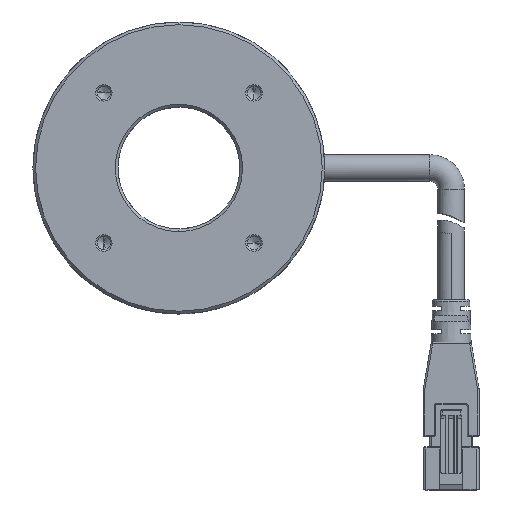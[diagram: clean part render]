
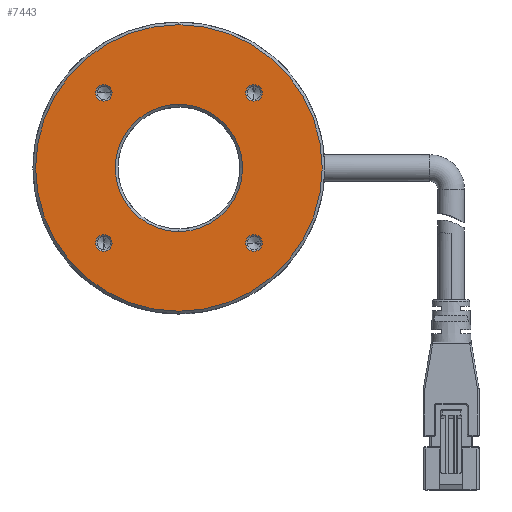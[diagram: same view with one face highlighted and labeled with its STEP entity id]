
A CAD part, top view. The second image highlights one B-rep face of the part: STEP entity #7443.
In plain terms, the highlighted planar face has unit normal (0, 0, 1).
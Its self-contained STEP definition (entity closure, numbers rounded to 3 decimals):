
#2032=CARTESIAN_POINT('',(-14.142,-14.142,1.5));
#2033=DIRECTION('',(0.,0.,-1.));
#2034=DIRECTION('',(0.,1.,0.));
#2035=AXIS2_PLACEMENT_3D('',#2032,#2033,#2034);
#2037=CARTESIAN_POINT('',(-14.142,-14.142,1.5));
#2038=DIRECTION('',(0.,0.,-1.));
#2039=DIRECTION('',(0.,-1.,0.));
#2040=AXIS2_PLACEMENT_3D('',#2037,#2038,#2039);
#2042=CARTESIAN_POINT('',(14.142,14.142,1.5));
#2043=DIRECTION('',(0.,0.,-1.));
#2044=DIRECTION('',(0.,1.,0.));
#2045=AXIS2_PLACEMENT_3D('',#2042,#2043,#2044);
#2047=CARTESIAN_POINT('',(14.142,14.142,1.5));
#2048=DIRECTION('',(0.,0.,-1.));
#2049=DIRECTION('',(0.,-1.,0.));
#2050=AXIS2_PLACEMENT_3D('',#2047,#2048,#2049);
#2052=CARTESIAN_POINT('',(0.,0.,1.5));
#2053=DIRECTION('',(0.,0.,-1.));
#2054=DIRECTION('',(0.,1.,0.));
#2055=AXIS2_PLACEMENT_3D('',#2052,#2053,#2054);
#2057=CARTESIAN_POINT('',(0.,0.,1.5));
#2058=DIRECTION('',(0.,0.,-1.));
#2059=DIRECTION('',(0.,-1.,0.));
#2060=AXIS2_PLACEMENT_3D('',#2057,#2058,#2059);
#2062=CARTESIAN_POINT('',(0.,0.,1.5));
#2063=DIRECTION('',(0.,0.,1.));
#2064=DIRECTION('',(0.,1.,0.));
#2065=AXIS2_PLACEMENT_3D('',#2062,#2063,#2064);
#2067=CARTESIAN_POINT('',(0.,0.,1.5));
#2068=DIRECTION('',(0.,0.,1.));
#2069=DIRECTION('',(0.,-1.,0.));
#2070=AXIS2_PLACEMENT_3D('',#2067,#2068,#2069);
#2120=CARTESIAN_POINT('',(14.142,-14.142,1.5));
#2121=DIRECTION('',(0.,0.,-1.));
#2122=DIRECTION('',(1.,0.,0.));
#2123=AXIS2_PLACEMENT_3D('',#2120,#2121,#2122);
#2134=CARTESIAN_POINT('',(14.142,-14.142,1.5));
#2135=DIRECTION('',(0.,0.,-1.));
#2136=DIRECTION('',(-1.,0.,0.));
#2137=AXIS2_PLACEMENT_3D('',#2134,#2135,#2136);
#2218=CARTESIAN_POINT('',(-14.142,14.142,1.5));
#2219=DIRECTION('',(0.,0.,-1.));
#2220=DIRECTION('',(-1.,0.,0.));
#2221=AXIS2_PLACEMENT_3D('',#2218,#2219,#2220);
#2232=CARTESIAN_POINT('',(-14.142,14.142,1.5));
#2233=DIRECTION('',(0.,0.,-1.));
#2234=DIRECTION('',(1.,0.,0.));
#2235=AXIS2_PLACEMENT_3D('',#2232,#2233,#2234);
#4369=CARTESIAN_POINT('',(0.,-27.,1.5));
#4370=CARTESIAN_POINT('',(0.,27.,1.5));
#4371=VERTEX_POINT('',#4369);
#4372=VERTEX_POINT('',#4370);
#4373=CARTESIAN_POINT('',(0.,-12.,1.5));
#4374=CARTESIAN_POINT('',(0.,12.,1.5));
#4375=VERTEX_POINT('',#4373);
#4376=VERTEX_POINT('',#4374);
#4377=CARTESIAN_POINT('',(14.142,12.592,1.5));
#4378=CARTESIAN_POINT('',(14.142,15.692,1.5));
#4379=VERTEX_POINT('',#4377);
#4380=VERTEX_POINT('',#4378);
#4381=CARTESIAN_POINT('',(-14.142,-15.692,1.5));
#4382=CARTESIAN_POINT('',(-14.142,-12.592,1.5));
#4383=VERTEX_POINT('',#4381);
#4384=VERTEX_POINT('',#4382);
#4447=CARTESIAN_POINT('',(-15.692,14.142,1.5));
#4449=VERTEX_POINT('',#4447);
#4452=CARTESIAN_POINT('',(-12.592,14.142,1.5));
#4454=VERTEX_POINT('',#4452);
#4471=CARTESIAN_POINT('',(15.692,-14.142,1.5));
#4473=VERTEX_POINT('',#4471);
#4476=CARTESIAN_POINT('',(12.592,-14.142,1.5));
#4478=VERTEX_POINT('',#4476);
#7404=CARTESIAN_POINT('',(0.,0.,1.5));
#7405=DIRECTION('',(0.,0.,-1.));
#7406=DIRECTION('',(0.,1.,0.));
#7407=AXIS2_PLACEMENT_3D('',#7404,#7405,#7406);
#7408=PLANE('',#7407);
#7410=ORIENTED_EDGE('',*,*,#7409,.F.);
#7412=ORIENTED_EDGE('',*,*,#7411,.F.);
#7413=EDGE_LOOP('',(#7410,#7412));
#7414=FACE_OUTER_BOUND('',#7413,.F.);
#7416=ORIENTED_EDGE('',*,*,#7415,.F.);
#7418=ORIENTED_EDGE('',*,*,#7417,.F.);
#7419=EDGE_LOOP('',(#7416,#7418));
#7420=FACE_BOUND('',#7419,.F.);
#7422=ORIENTED_EDGE('',*,*,#7421,.F.);
#7424=ORIENTED_EDGE('',*,*,#7423,.F.);
#7425=EDGE_LOOP('',(#7422,#7424));
#7426=FACE_BOUND('',#7425,.F.);
#7428=ORIENTED_EDGE('',*,*,#7427,.F.);
#7430=ORIENTED_EDGE('',*,*,#7429,.F.);
#7431=EDGE_LOOP('',(#7428,#7430));
#7432=FACE_BOUND('',#7431,.F.);
#7433=ORIENTED_EDGE('',*,*,#7369,.F.);
#7434=ORIENTED_EDGE('',*,*,#7390,.F.);
#7435=EDGE_LOOP('',(#7433,#7434));
#7436=FACE_BOUND('',#7435,.F.);
#7438=ORIENTED_EDGE('',*,*,#7437,.F.);
#7440=ORIENTED_EDGE('',*,*,#7439,.F.);
#7441=EDGE_LOOP('',(#7438,#7440));
#7442=FACE_BOUND('',#7441,.F.);
#7443=ADVANCED_FACE('',(#7414,#7420,#7426,#7432,#7436,#7442),#7408,.F.);
#2036=CIRCLE('',#2035,1.55);
#2041=CIRCLE('',#2040,1.55);
#2046=CIRCLE('',#2045,1.55);
#2051=CIRCLE('',#2050,1.55);
#2056=CIRCLE('',#2055,12.);
#2061=CIRCLE('',#2060,12.);
#2066=CIRCLE('',#2065,27.);
#2071=CIRCLE('',#2070,27.);
#2124=CIRCLE('',#2123,1.55);
#2138=CIRCLE('',#2137,1.55);
#2222=CIRCLE('',#2221,1.55);
#2236=CIRCLE('',#2235,1.55);
#7369=EDGE_CURVE('',#4376,#4375,#2056,.T.);
#7390=EDGE_CURVE('',#4375,#4376,#2061,.T.);
#7409=EDGE_CURVE('',#4372,#4371,#2066,.T.);
#7411=EDGE_CURVE('',#4371,#4372,#2071,.T.);
#7415=EDGE_CURVE('',#4473,#4478,#2124,.T.);
#7417=EDGE_CURVE('',#4478,#4473,#2138,.T.);
#7421=EDGE_CURVE('',#4380,#4379,#2046,.T.);
#7423=EDGE_CURVE('',#4379,#4380,#2051,.T.);
#7427=EDGE_CURVE('',#4449,#4454,#2222,.T.);
#7429=EDGE_CURVE('',#4454,#4449,#2236,.T.);
#7437=EDGE_CURVE('',#4384,#4383,#2036,.T.);
#7439=EDGE_CURVE('',#4383,#4384,#2041,.T.);
